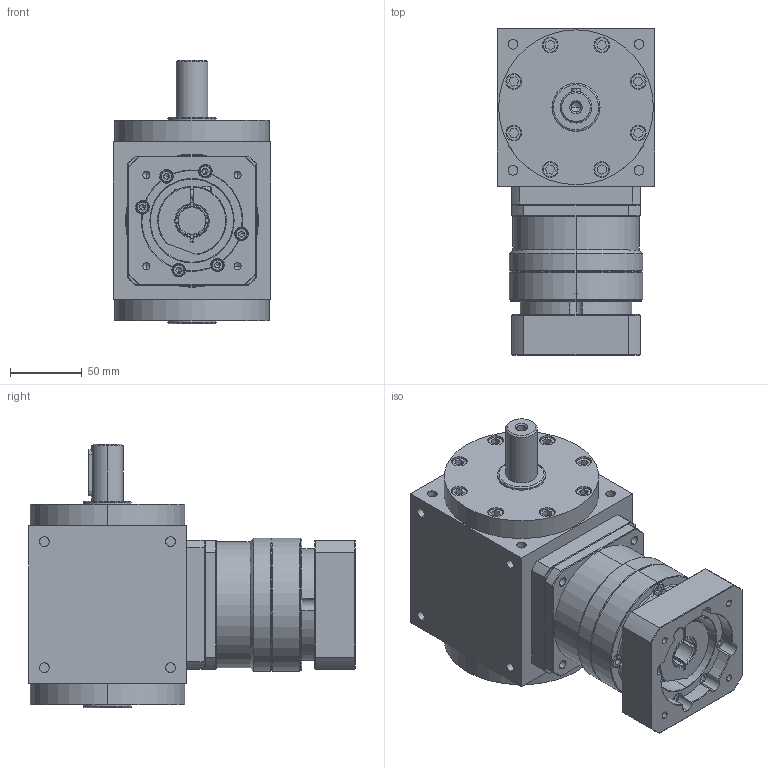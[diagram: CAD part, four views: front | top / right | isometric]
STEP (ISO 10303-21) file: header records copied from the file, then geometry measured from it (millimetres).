
FILE_DESCRIPTION (( 'STEP AP203' ), '1' );
FILE_NAME ('AT110-FR1-L1 19-70-90-M6.STEP', '2024-12-20T07:25:05', ( '' ), ( '' ), 'SwSTEP 2.0', 'SolidWorks 2021', '' );
FILE_SCHEMA (( 'CONFIG_CONTROL_DESIGN' ));
Length unit declared in the file: millimetre
Products named in the file (3): AT110-FR1-L1 19-70-90-M6; VRB-090-L1-S2-P1 19-70-90-M6; AT110-FR1
Assembly tree (2 placements, depth 2):
  AT110-FR1-L1 19-70-90-M6
    AT110-FR1
    VRB-090-L1-S2-P1 19-70-90-M6
Bounding box: 110 x 228 x 184 mm (x, y, z)
Volume: 2343206.7 mm3; surface area: 238094.2 mm2
Topology: 32 solids, 32 shells, 1278 faces, 3113 edges, 1953 vertices
Faces by surface type: plane 545, cylinder 504, cone 187, torus 38, bspline 4
Entity records: 39444 total; most frequent: CARTESIAN_POINT 8977, DIRECTION 6602, ORIENTED_EDGE 6098, EDGE_CURVE 3049, AXIS2_PLACEMENT_3D 2563, VERTEX_POINT 1953, VECTOR 1476, LINE 1476
